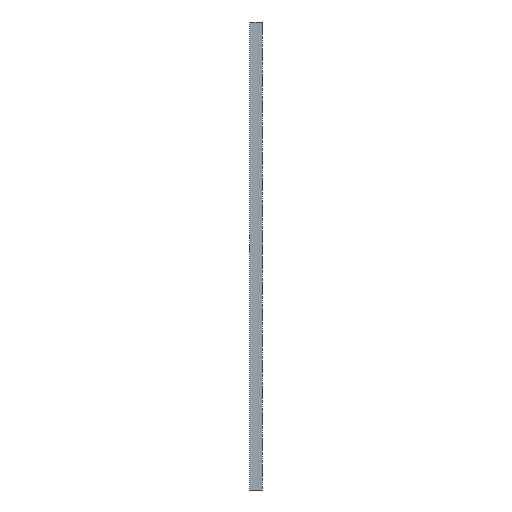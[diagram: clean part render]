
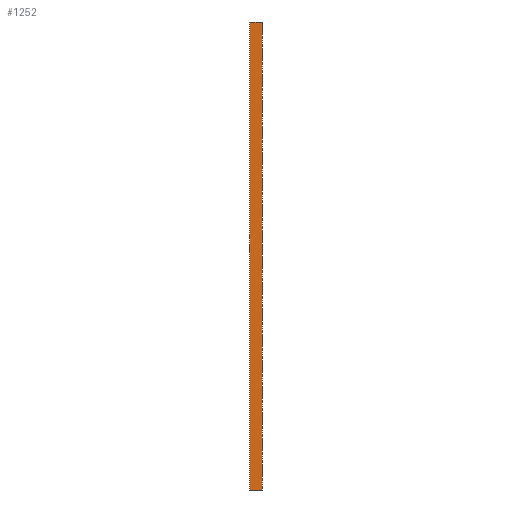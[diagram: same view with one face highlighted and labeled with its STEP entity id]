
A CAD part, left-side view. The second image highlights one B-rep face of the part: STEP entity #1252.
In plain terms, the highlighted planar face has unit normal (-1, 0, 0).
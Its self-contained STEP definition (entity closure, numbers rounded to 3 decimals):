
#148 = EDGE_CURVE ( 'NONE', #3477, #6989, #5196, .T. ) ;
#202 = EDGE_CURVE ( 'NONE', #6989, #2674, #2242, .T. ) ;
#286 = CARTESIAN_POINT ( 'NONE',  ( 0., 83., -1500. ) ) ;
#387 = CARTESIAN_POINT ( 'NONE',  ( 0., 0., 1500. ) ) ;
#665 = DIRECTION ( 'NONE',  ( 0., -1., 0. ) ) ;
#865 = DIRECTION ( 'NONE',  ( 0., 0., -1. ) ) ;
#1252 = ADVANCED_FACE ( 'NONE', ( #2244 ), #7683, .F. ) ;
#1405 = VECTOR ( 'NONE', #865, 1000. ) ;
#1991 = VECTOR ( 'NONE', #8157, 1000. ) ;
#2242 = LINE ( 'NONE', #9921, #8333 ) ;
#2244 = FACE_OUTER_BOUND ( 'NONE', #4082, .T. ) ;
#2674 = VERTEX_POINT ( 'NONE', #9052 ) ;
#3477 = VERTEX_POINT ( 'NONE', #3478 ) ;
#3478 = CARTESIAN_POINT ( 'NONE',  ( 0., 83., 1500. ) ) ;
#3634 = LINE ( 'NONE', #387, #8620 ) ;
#3722 = CARTESIAN_POINT ( 'NONE',  ( 0., 0., 1500. ) ) ;
#3875 = ORIENTED_EDGE ( 'NONE', *, *, #148, .T. ) ;
#4082 = EDGE_LOOP ( 'NONE', ( #5714, #6141, #8624, #3875 ) ) ;
#4913 = EDGE_CURVE ( 'NONE', #6947, #2674, #5495, .T. ) ;
#5047 = CARTESIAN_POINT ( 'NONE',  ( 0., 83., 1500. ) ) ;
#5196 = LINE ( 'NONE', #5047, #1991 ) ;
#5350 = DIRECTION ( 'NONE',  ( 1., 0., 0. ) ) ;
#5495 = LINE ( 'NONE', #7837, #1405 ) ;
#5714 = ORIENTED_EDGE ( 'NONE', *, *, #202, .T. ) ;
#6141 = ORIENTED_EDGE ( 'NONE', *, *, #4913, .F. ) ;
#6866 = DIRECTION ( 'NONE',  ( 0., 0., -1. ) ) ;
#6947 = VERTEX_POINT ( 'NONE', #7078 ) ;
#6989 = VERTEX_POINT ( 'NONE', #286 ) ;
#7078 = CARTESIAN_POINT ( 'NONE',  ( 0., 0., 1500. ) ) ;
#7683 = PLANE ( 'NONE',  #7873 ) ;
#7837 = CARTESIAN_POINT ( 'NONE',  ( 0., 0., 1500. ) ) ;
#7873 = AXIS2_PLACEMENT_3D ( 'NONE', #3722, #5350, #6866 ) ;
#8157 = DIRECTION ( 'NONE',  ( 0., 0., -1. ) ) ;
#8276 = DIRECTION ( 'NONE',  ( 0., -1., 0. ) ) ;
#8333 = VECTOR ( 'NONE', #665, 1000. ) ;
#8620 = VECTOR ( 'NONE', #8276, 1000. ) ;
#8624 = ORIENTED_EDGE ( 'NONE', *, *, #9330, .F. ) ;
#9052 = CARTESIAN_POINT ( 'NONE',  ( 0., 0., -1500. ) ) ;
#9330 = EDGE_CURVE ( 'NONE', #3477, #6947, #3634, .T. ) ;
#9921 = CARTESIAN_POINT ( 'NONE',  ( 0., 0., -1500. ) ) ;
